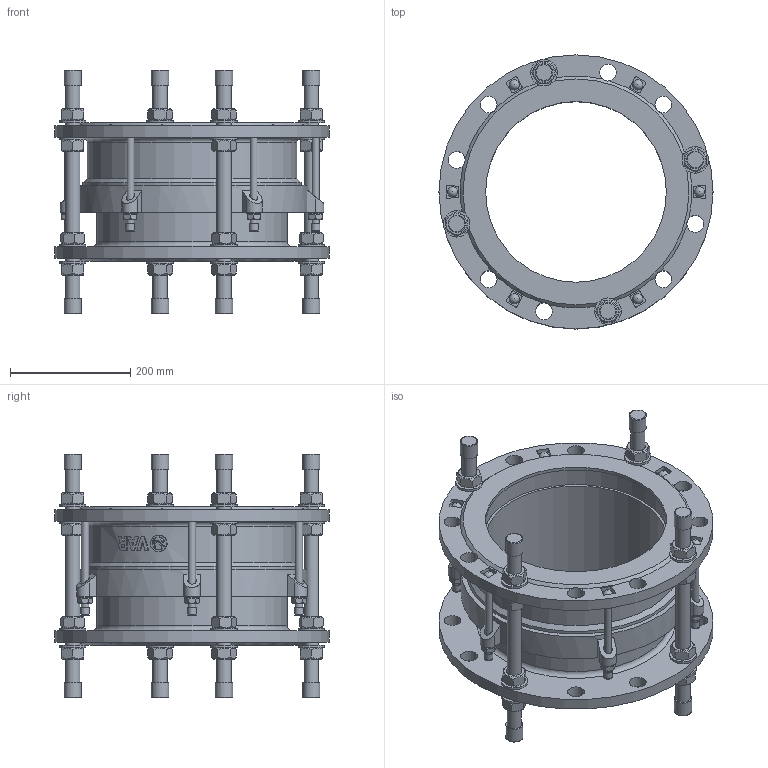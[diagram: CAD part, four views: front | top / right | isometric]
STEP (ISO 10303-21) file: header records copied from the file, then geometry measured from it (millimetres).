
FILE_DESCRIPTION(('STEP AP242'), '1');
FILE_NAME('Ìîíòàæíàÿ âñòàâêà', '', ('UNSPECIFIED'), ('UNSPECIFIED'), 'C3D Converter', 'C3D Toolkit', '');
FILE_SCHEMA(('AP242_MANAGED_MODEL_BASED_3D_ENGINEERING_MIM_LF { 1 0 10303 442 1 1 4 }'));
Length unit declared in the file: millimetre
Products named in the file (13): ШМ.М16.310
Assembly tree (72 placements, depth 2):
  (unnamed)
    (unnamed)
    (unnamed)
    (unnamed)
    (unnamed)  x16
    (unnamed)  x16
    ШМ.М16.310  x4
    (unnamed)  x8
    (unnamed)
    (unnamed)  x6
    (unnamed)  x6
    (unnamed)  x6
    (unnamed)  x6
Bounding box: 455 x 455 x 404.8 mm (x, y, z)
Volume: 8493437.7 mm3; surface area: 1664870.2 mm2
Topology: 72 solids, 72 shells, 788 faces, 1762 edges, 1122 vertices
Faces by surface type: plane 459, cylinder 187, cone 109, torus 16, extrusion 11, sphere 6
Full cylindrical faces by diameter (mm): 12 x18, 13 x6, 14 x6, 14.4 x6, 24 x34, 25 x16, 27.455 x1, 28 x24, 28.8 x8, 44 x16, 300 x2, 316 x2, 324 x2, 348 x1, 356 x1, 362 x1, 366 x1, 382 x1, 455 x2
Entity records: 18789 total; most frequent: CARTESIAN_POINT 9264, DIRECTION 1540, ORIENTED_EDGE 1372, EDGE_CURVE 686, AXIS2_PLACEMENT_3D 623, VERTEX_POINT 499, EDGE_LOOP 449, FACE_BOUND 331
